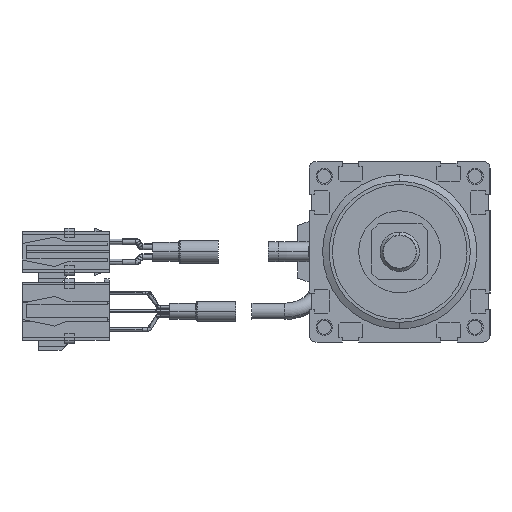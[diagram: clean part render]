
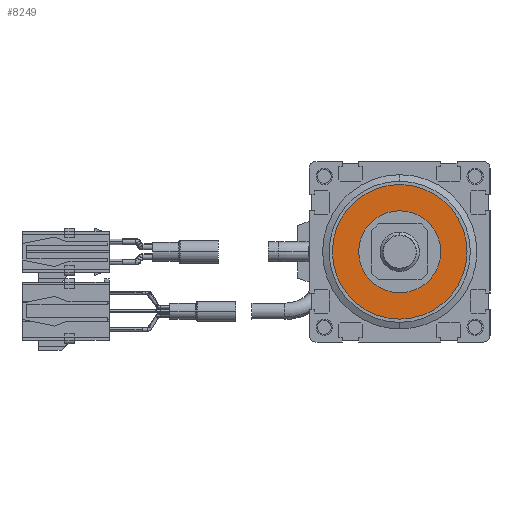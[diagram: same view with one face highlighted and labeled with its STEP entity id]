
A CAD part, left-side view. The second image highlights one B-rep face of the part: STEP entity #8249.
In plain terms, the highlighted planar face has unit normal (-1, 0, 0).
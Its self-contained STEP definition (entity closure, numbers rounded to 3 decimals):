
#1969=CARTESIAN_POINT('',(-241.,0.,0.));
#1970=DIRECTION('',(1.,0.,0.));
#1971=DIRECTION('',(0.,1.,0.));
#1972=AXIS2_PLACEMENT_3D('',#1969,#1970,#1971);
#1974=CARTESIAN_POINT('',(-241.,0.,0.));
#1975=DIRECTION('',(1.,0.,0.));
#1976=DIRECTION('',(0.,-1.,0.));
#1977=AXIS2_PLACEMENT_3D('',#1974,#1975,#1976);
#1979=CARTESIAN_POINT('',(-241.,0.,0.));
#1980=DIRECTION('',(-1.,0.,0.));
#1981=DIRECTION('',(0.,0.,1.));
#1982=AXIS2_PLACEMENT_3D('',#1979,#1980,#1981);
#1984=CARTESIAN_POINT('',(-241.,0.,0.));
#1985=DIRECTION('',(-1.,0.,0.));
#1986=DIRECTION('',(0.,0.,-1.));
#1987=AXIS2_PLACEMENT_3D('',#1984,#1985,#1986);
#4237=CARTESIAN_POINT('',(-241.,20.5,0.));
#4238=VERTEX_POINT('',#4237);
#4239=CARTESIAN_POINT('',(-241.,-20.5,0.));
#4240=VERTEX_POINT('',#4239);
#5371=CARTESIAN_POINT('',(-241.,0.,12.5));
#5372=CARTESIAN_POINT('',(-241.,0.,-12.5));
#5373=VERTEX_POINT('',#5371);
#5374=VERTEX_POINT('',#5372);
#8234=CARTESIAN_POINT('',(-241.,0.,0.));
#8235=DIRECTION('',(1.,0.,0.));
#8236=DIRECTION('',(0.,1.,0.));
#8237=AXIS2_PLACEMENT_3D('',#8234,#8235,#8236);
#8238=PLANE('',#8237);
#8239=ORIENTED_EDGE('',*,*,#8214,.T.);
#8240=ORIENTED_EDGE('',*,*,#8228,.T.);
#8241=EDGE_LOOP('',(#8239,#8240));
#8242=FACE_OUTER_BOUND('',#8241,.F.);
#8244=ORIENTED_EDGE('',*,*,#8243,.T.);
#8246=ORIENTED_EDGE('',*,*,#8245,.T.);
#8247=EDGE_LOOP('',(#8244,#8246));
#8248=FACE_BOUND('',#8247,.F.);
#8249=ADVANCED_FACE('',(#8242,#8248),#8238,.F.);
#1973=CIRCLE('',#1972,20.5);
#1978=CIRCLE('',#1977,20.5);
#1983=CIRCLE('',#1982,12.5);
#1988=CIRCLE('',#1987,12.5);
#8214=EDGE_CURVE('',#4238,#4240,#1973,.T.);
#8228=EDGE_CURVE('',#4240,#4238,#1978,.T.);
#8243=EDGE_CURVE('',#5373,#5374,#1983,.T.);
#8245=EDGE_CURVE('',#5374,#5373,#1988,.T.);
